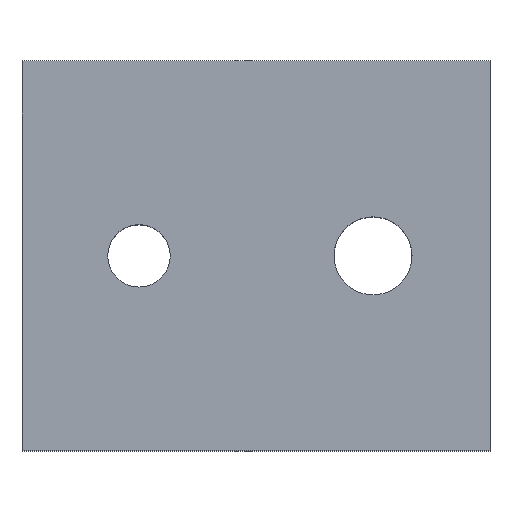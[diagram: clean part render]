
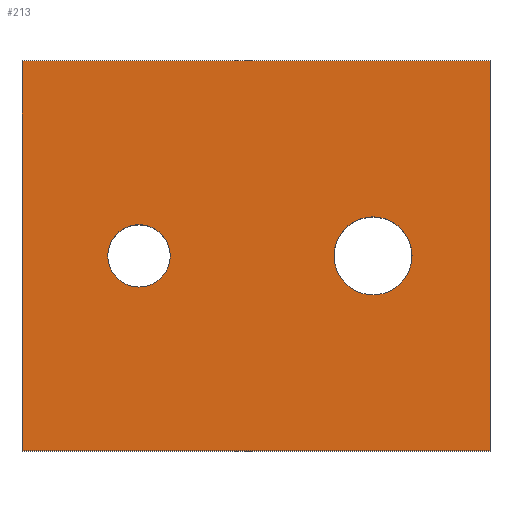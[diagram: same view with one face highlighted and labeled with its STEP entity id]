
A CAD part, top view. The second image highlights one B-rep face of the part: STEP entity #213.
In plain terms, the highlighted planar face has unit normal (0, 0, 1).
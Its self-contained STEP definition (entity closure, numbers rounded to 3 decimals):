
#24 = VERTEX_POINT('',#25);
#25 = CARTESIAN_POINT('',(0.,0.,4.));
#32 = PLANE('',#33);
#33 = AXIS2_PLACEMENT_3D('',#34,#35,#36);
#34 = CARTESIAN_POINT('',(0.,0.,0.));
#35 = DIRECTION('',(1.,0.,-0.));
#36 = DIRECTION('',(0.,0.,1.));
#44 = PLANE('',#45);
#45 = AXIS2_PLACEMENT_3D('',#46,#47,#48);
#46 = CARTESIAN_POINT('',(0.,0.,0.));
#47 = DIRECTION('',(-0.,1.,0.));
#48 = DIRECTION('',(0.,0.,1.));
#85 = VERTEX_POINT('',#86);
#86 = CARTESIAN_POINT('',(0.,10.,4.));
#100 = PLANE('',#101);
#101 = AXIS2_PLACEMENT_3D('',#102,#103,#104);
#102 = CARTESIAN_POINT('',(0.,10.,0.));
#103 = DIRECTION('',(-0.,1.,0.));
#104 = DIRECTION('',(0.,0.,1.));
#112 = EDGE_CURVE('',#24,#85,#113,.T.);
#113 = SURFACE_CURVE('',#114,(#118,#125),.PCURVE_S1.);
#114 = LINE('',#115,#116);
#115 = CARTESIAN_POINT('',(0.,0.,4.));
#116 = VECTOR('',#117,1.);
#117 = DIRECTION('',(-0.,1.,0.));
#118 = PCURVE('',#32,#119);
#119 = DEFINITIONAL_REPRESENTATION('',(#120),#124);
#120 = LINE('',#121,#122);
#121 = CARTESIAN_POINT('',(4.,0.));
#122 = VECTOR('',#123,1.);
#123 = DIRECTION('',(0.,-1.));
#124 = ( GEOMETRIC_REPRESENTATION_CONTEXT(2) 
PARAMETRIC_REPRESENTATION_CONTEXT() REPRESENTATION_CONTEXT('2D SPACE',''
  ) );
#125 = PCURVE('',#126,#131);
#126 = PLANE('',#127);
#127 = AXIS2_PLACEMENT_3D('',#128,#129,#130);
#128 = CARTESIAN_POINT('',(0.,0.,4.));
#129 = DIRECTION('',(0.,0.,1.));
#130 = DIRECTION('',(1.,0.,-0.));
#131 = DEFINITIONAL_REPRESENTATION('',(#132),#136);
#132 = LINE('',#133,#134);
#133 = CARTESIAN_POINT('',(0.,0.));
#134 = VECTOR('',#135,1.);
#135 = DIRECTION('',(0.,1.));
#136 = ( GEOMETRIC_REPRESENTATION_CONTEXT(2) 
PARAMETRIC_REPRESENTATION_CONTEXT() REPRESENTATION_CONTEXT('2D SPACE',''
  ) );
#165 = EDGE_CURVE('',#24,#166,#168,.T.);
#166 = VERTEX_POINT('',#167);
#167 = CARTESIAN_POINT('',(12.,0.,4.));
#168 = SURFACE_CURVE('',#169,(#173,#180),.PCURVE_S1.);
#169 = LINE('',#170,#171);
#170 = CARTESIAN_POINT('',(0.,0.,4.));
#171 = VECTOR('',#172,1.);
#172 = DIRECTION('',(1.,0.,-0.));
#173 = PCURVE('',#44,#174);
#174 = DEFINITIONAL_REPRESENTATION('',(#175),#179);
#175 = LINE('',#176,#177);
#176 = CARTESIAN_POINT('',(4.,0.));
#177 = VECTOR('',#178,1.);
#178 = DIRECTION('',(0.,1.));
#179 = ( GEOMETRIC_REPRESENTATION_CONTEXT(2) 
PARAMETRIC_REPRESENTATION_CONTEXT() REPRESENTATION_CONTEXT('2D SPACE',''
  ) );
#180 = PCURVE('',#126,#181);
#181 = DEFINITIONAL_REPRESENTATION('',(#182),#186);
#182 = LINE('',#183,#184);
#183 = CARTESIAN_POINT('',(0.,0.));
#184 = VECTOR('',#185,1.);
#185 = DIRECTION('',(1.,0.));
#186 = ( GEOMETRIC_REPRESENTATION_CONTEXT(2) 
PARAMETRIC_REPRESENTATION_CONTEXT() REPRESENTATION_CONTEXT('2D SPACE',''
  ) );
#202 = PLANE('',#203);
#203 = AXIS2_PLACEMENT_3D('',#204,#205,#206);
#204 = CARTESIAN_POINT('',(12.,0.,0.));
#205 = DIRECTION('',(1.,0.,-0.));
#206 = DIRECTION('',(0.,0.,1.));
#213 = ADVANCED_FACE('',(#214,#262,#293),#126,.T.);
#214 = FACE_BOUND('',#215,.T.);
#215 = EDGE_LOOP('',(#216,#217,#218,#241));
#216 = ORIENTED_EDGE('',*,*,#112,.F.);
#217 = ORIENTED_EDGE('',*,*,#165,.T.);
#218 = ORIENTED_EDGE('',*,*,#219,.T.);
#219 = EDGE_CURVE('',#166,#220,#222,.T.);
#220 = VERTEX_POINT('',#221);
#221 = CARTESIAN_POINT('',(12.,10.,4.));
#222 = SURFACE_CURVE('',#223,(#227,#234),.PCURVE_S1.);
#223 = LINE('',#224,#225);
#224 = CARTESIAN_POINT('',(12.,0.,4.));
#225 = VECTOR('',#226,1.);
#226 = DIRECTION('',(-0.,1.,0.));
#227 = PCURVE('',#126,#228);
#228 = DEFINITIONAL_REPRESENTATION('',(#229),#233);
#229 = LINE('',#230,#231);
#230 = CARTESIAN_POINT('',(12.,0.));
#231 = VECTOR('',#232,1.);
#232 = DIRECTION('',(0.,1.));
#233 = ( GEOMETRIC_REPRESENTATION_CONTEXT(2) 
PARAMETRIC_REPRESENTATION_CONTEXT() REPRESENTATION_CONTEXT('2D SPACE',''
  ) );
#234 = PCURVE('',#202,#235);
#235 = DEFINITIONAL_REPRESENTATION('',(#236),#240);
#236 = LINE('',#237,#238);
#237 = CARTESIAN_POINT('',(4.,0.));
#238 = VECTOR('',#239,1.);
#239 = DIRECTION('',(0.,-1.));
#240 = ( GEOMETRIC_REPRESENTATION_CONTEXT(2) 
PARAMETRIC_REPRESENTATION_CONTEXT() REPRESENTATION_CONTEXT('2D SPACE',''
  ) );
#241 = ORIENTED_EDGE('',*,*,#242,.F.);
#242 = EDGE_CURVE('',#85,#220,#243,.T.);
#243 = SURFACE_CURVE('',#244,(#248,#255),.PCURVE_S1.);
#244 = LINE('',#245,#246);
#245 = CARTESIAN_POINT('',(0.,10.,4.));
#246 = VECTOR('',#247,1.);
#247 = DIRECTION('',(1.,0.,-0.));
#248 = PCURVE('',#126,#249);
#249 = DEFINITIONAL_REPRESENTATION('',(#250),#254);
#250 = LINE('',#251,#252);
#251 = CARTESIAN_POINT('',(0.,10.));
#252 = VECTOR('',#253,1.);
#253 = DIRECTION('',(1.,0.));
#254 = ( GEOMETRIC_REPRESENTATION_CONTEXT(2) 
PARAMETRIC_REPRESENTATION_CONTEXT() REPRESENTATION_CONTEXT('2D SPACE',''
  ) );
#255 = PCURVE('',#100,#256);
#256 = DEFINITIONAL_REPRESENTATION('',(#257),#261);
#257 = LINE('',#258,#259);
#258 = CARTESIAN_POINT('',(4.,0.));
#259 = VECTOR('',#260,1.);
#260 = DIRECTION('',(0.,1.));
#261 = ( GEOMETRIC_REPRESENTATION_CONTEXT(2) 
PARAMETRIC_REPRESENTATION_CONTEXT() REPRESENTATION_CONTEXT('2D SPACE',''
  ) );
#262 = FACE_BOUND('',#263,.T.);
#263 = EDGE_LOOP('',(#264));
#264 = ORIENTED_EDGE('',*,*,#265,.F.);
#265 = EDGE_CURVE('',#266,#266,#268,.T.);
#266 = VERTEX_POINT('',#267);
#267 = CARTESIAN_POINT('',(3.8,5.,4.));
#268 = SURFACE_CURVE('',#269,(#274,#281),.PCURVE_S1.);
#269 = CIRCLE('',#270,0.8);
#270 = AXIS2_PLACEMENT_3D('',#271,#272,#273);
#271 = CARTESIAN_POINT('',(3.,5.,4.));
#272 = DIRECTION('',(0.,0.,1.));
#273 = DIRECTION('',(1.,0.,-0.));
#274 = PCURVE('',#126,#275);
#275 = DEFINITIONAL_REPRESENTATION('',(#276),#280);
#276 = CIRCLE('',#277,0.8);
#277 = AXIS2_PLACEMENT_2D('',#278,#279);
#278 = CARTESIAN_POINT('',(3.,5.));
#279 = DIRECTION('',(1.,0.));
#280 = ( GEOMETRIC_REPRESENTATION_CONTEXT(2) 
PARAMETRIC_REPRESENTATION_CONTEXT() REPRESENTATION_CONTEXT('2D SPACE',''
  ) );
#281 = PCURVE('',#282,#287);
#282 = CYLINDRICAL_SURFACE('',#283,0.8);
#283 = AXIS2_PLACEMENT_3D('',#284,#285,#286);
#284 = CARTESIAN_POINT('',(3.,5.,-2.));
#285 = DIRECTION('',(0.,0.,1.));
#286 = DIRECTION('',(1.,0.,-0.));
#287 = DEFINITIONAL_REPRESENTATION('',(#288),#292);
#288 = LINE('',#289,#290);
#289 = CARTESIAN_POINT('',(0.,6.));
#290 = VECTOR('',#291,1.);
#291 = DIRECTION('',(1.,0.));
#292 = ( GEOMETRIC_REPRESENTATION_CONTEXT(2) 
PARAMETRIC_REPRESENTATION_CONTEXT() REPRESENTATION_CONTEXT('2D SPACE',''
  ) );
#293 = FACE_BOUND('',#294,.T.);
#294 = EDGE_LOOP('',(#295));
#295 = ORIENTED_EDGE('',*,*,#296,.F.);
#296 = EDGE_CURVE('',#297,#297,#299,.T.);
#297 = VERTEX_POINT('',#298);
#298 = CARTESIAN_POINT('',(10.,5.,4.));
#299 = SURFACE_CURVE('',#300,(#305,#312),.PCURVE_S1.);
#300 = CIRCLE('',#301,1.);
#301 = AXIS2_PLACEMENT_3D('',#302,#303,#304);
#302 = CARTESIAN_POINT('',(9.,5.,4.));
#303 = DIRECTION('',(0.,0.,1.));
#304 = DIRECTION('',(1.,0.,-0.));
#305 = PCURVE('',#126,#306);
#306 = DEFINITIONAL_REPRESENTATION('',(#307),#311);
#307 = CIRCLE('',#308,1.);
#308 = AXIS2_PLACEMENT_2D('',#309,#310);
#309 = CARTESIAN_POINT('',(9.,5.));
#310 = DIRECTION('',(1.,0.));
#311 = ( GEOMETRIC_REPRESENTATION_CONTEXT(2) 
PARAMETRIC_REPRESENTATION_CONTEXT() REPRESENTATION_CONTEXT('2D SPACE',''
  ) );
#312 = PCURVE('',#313,#318);
#313 = CYLINDRICAL_SURFACE('',#314,1.);
#314 = AXIS2_PLACEMENT_3D('',#315,#316,#317);
#315 = CARTESIAN_POINT('',(9.,5.,-2.));
#316 = DIRECTION('',(0.,0.,1.));
#317 = DIRECTION('',(1.,0.,-0.));
#318 = DEFINITIONAL_REPRESENTATION('',(#319),#323);
#319 = LINE('',#320,#321);
#320 = CARTESIAN_POINT('',(0.,6.));
#321 = VECTOR('',#322,1.);
#322 = DIRECTION('',(1.,0.));
#323 = ( GEOMETRIC_REPRESENTATION_CONTEXT(2) 
PARAMETRIC_REPRESENTATION_CONTEXT() REPRESENTATION_CONTEXT('2D SPACE',''
  ) );
